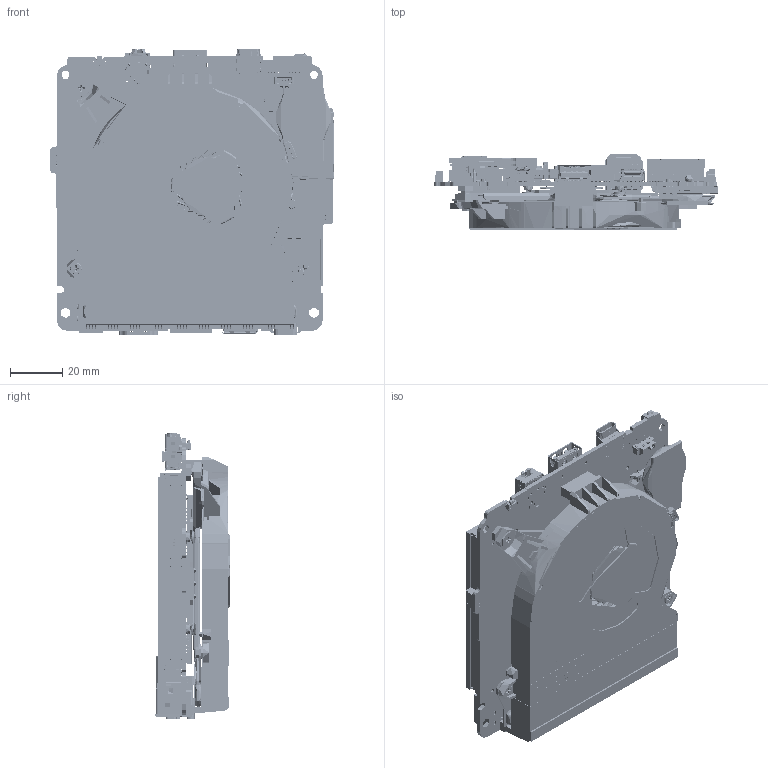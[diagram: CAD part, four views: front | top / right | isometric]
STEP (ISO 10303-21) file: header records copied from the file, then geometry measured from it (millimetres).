
FILE_DESCRIPTION (( 'STEP AP203' ), '1' );
FILE_NAME ('NUC_FN_Board_19WW24.STEP', '2019-06-17T22:53:57', ( '' ), ( '' ), 'SwSTEP 2.0', 'SolidWorks 2018', '' );
FILE_SCHEMA (( 'CONFIG_CONTROL_DESIGN' ));
Length unit declared in the file: millimetre
Products named in the file (56): 10-340-003822_LS; 20-140-001210_POCONS; SSD_M500_M2_2280_MICRON; 10-611-002838_LONG-SHOUNG; 10-084-018053_LOTES; 11-251-002416_DP; 6700K-J16N-00C_ENTERY; CON_BIOS_SOCKET_ACA-SPI-004-K01; CPU_CML-U_6C_GT2_J92043_INTEL; 11-024-019181_TAISOL; 10-083-019703_HITOP; BLOWER_8010_DELTA; 10-382-010833_LS; 10-084-009211_LINGYANG; 10-084-024077_LOTES; PCB_DDR4_RAM; SCREW_I_M20X30D50H08_NI; 10-083-019864_MOSTWELL; 10-456-067074_LOTES; BATTERY_NUC_3; 10-084-024092_LOTES; 10-361-006395_ACES; RUBBER_UNDER_FAN_NUC_BE; 10-331-010391_ACES; NUT_HEATSINK_BACK_NUC_FN; INTEL_M2_WIFI_1216; LED_RGB_S31X_LITEON; LED_19-217-BHC_ECEL; 20-100PMQ9021_JINGTONG; 03-105-239090_EVERLIGHT; HS_AVC_NUC_FN; 11-371-002573_MOSTWELL; RUBBER_FAN_1; MB_NUC_INTEL_FN; ASM_SHIELDING_TBT_NUC_FN_ASM; HS_CM_NUC_FN; 20-100PMQ9121_JINGTONG; 23-745-300355_GREAT_GOLD; 23-745-200955_GREAT_GOLD; 10-361-004401_ACES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
Assembly tree (65 placements, depth 3):
  NUC_FN_Board_19WW24
    MB_NUC_INTEL_FN
    NUT_HEATSINK_BACK_NUC_FN  x4
    CPU_CML-U_6C_GT2_J92043_INTEL
    ASM_THERMAL_NUC_FN_ASM
      HS_CM_NUC_FN
      HS_AVC_NUC_FN
      BLOWER_8010_DELTA
    11-025-260128_LOTES
    11-025-260122_LOTES
    PCB_DDR4_RAM  x2
    10-456-067074_LOTES
    23-745-200955_GREAT_GOLD
    SSD_M500_M2_2280_MICRON
    23-745-300355_GREAT_GOLD
    23-642-200047_GREAT_GOLD
    SCREW_I_M20X30D50H08_NI
    INTEL_M2_WIFI_1216
    ASM_SHIELDING_SD-IC_NUC_FN_ASM
      20-100PMQ9021_JINGTONG
      20-140-001210_POCONS  x3
    CON_BIOS_SOCKET_ACA-SPI-004-K01
    ASM_SHIELDING_TBT_NUC_FN_ASM
      20-100PMQ9121_JINGTONG
      20-140-001210_POCONS  x3
    10-084-024077_LOTES
    10-084-018053_LOTES
    11-367-012200_SINGATRON
    10-083-019864_MOSTWELL
    10-083-019703_HITOP
    11-371-002573_MOSTWELL
    11-369-006129_LOTES
    10-084-009211_LINGYANG
    10-084-024092_LOTES
    LED_RGB_S31X_LITEON
    03-071-953883_EVERLIGHT
    11-024-019181_TAISOL
    10-361-006395_ACES
    10-026-016390_ACES
    6700K-J16N-00C_ENTERY
    10-261-004407_ACES  x2
    10-361-004401_ACES
    10-261-002401_ACES
    10-361-004400_ACES
    10-340-003822_LS
    10-611-002838_LONG-SHOUNG
    10-382-010833_LS
    LED_19-217-BHC_ECEL
    11-251-002416_DP
    11-251-002782_DIPTRONICS
    10-261-004406_ACES
    10-331-010391_ACES
    03-105-239090_EVERLIGHT
    BATTERY_NUC_3
    RUBBER_FAN_1
    RUBBER_FAN-2
    RUBBER_UNDER_FAN_NUC_BE
Bounding box: 108.31 x 28.78 x 109.7 mm (x, y, z)
Topology: 69 solids, 175 shells, 36737 faces, 106547 edges, 69592 vertices
Faces by surface type: plane 24918, cylinder 9994, bspline 1519, cone 240, torus 66
Full cylindrical faces by diameter (mm): 0.4 x1, 0.8 x1
Entity records: 1263048 total; most frequent: CARTESIAN_POINT 362914, ORIENTED_EDGE 203252, DIRECTION 160441, EDGE_CURVE 101837, VECTOR 72171, LINE 72171, VERTEX_POINT 66675, AXIS2_PLACEMENT_3D 44135
